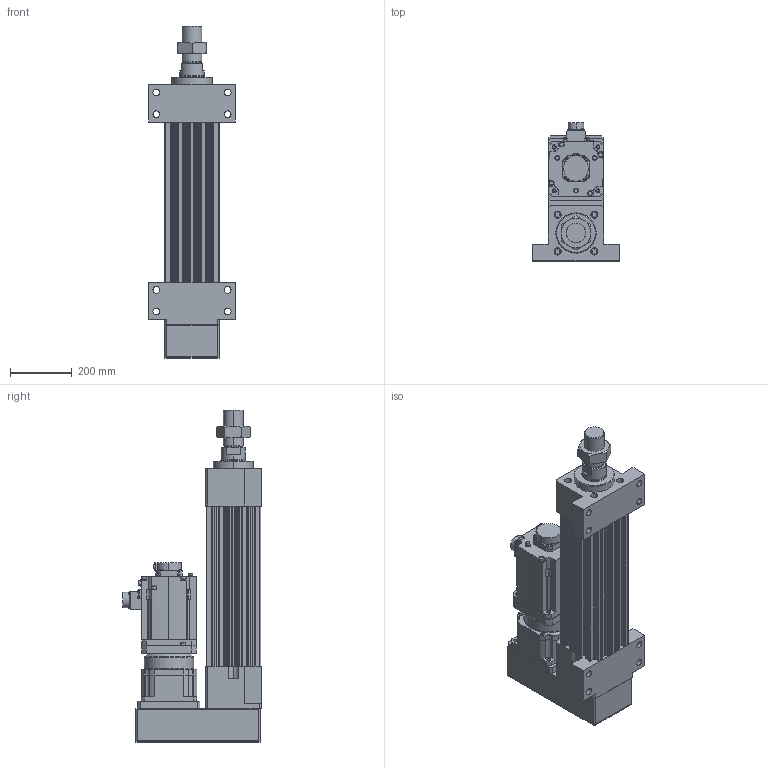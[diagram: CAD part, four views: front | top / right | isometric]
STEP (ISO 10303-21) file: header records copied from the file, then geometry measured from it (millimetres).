
FILE_DESCRIPTION (( 'STEP AP203' ), '1' );
FILE_NAME ('HES180HS-P200-W070G00-M-FFB.STEP', '2026-06-10T06:47:44', ( 'tms' ), ( '' ), 'SwSTEP 2.0', 'SolidWorks 2013', '' );
FILE_SCHEMA (( 'CONFIG_CONTROL_DESIGN' ));
Length unit declared in the file: millimetre
Products named in the file (9): M64X2.0P; HG-SR702B; AB1803; AB1801; HES180-M-ROD-200; AB1802; HES180-P-G180; HES180HS-P200-W070G00-M-FFB; HES180-FFB-200
Assembly tree (8 placements, depth 2):
  HES180HS-P200-W070G00-M-FFB
    HES180-FFB-200
    HES180-M-ROD-200
    M64X2.0P
    HES180-P-G180
    AB1801
    AB1802
    AB1803
    HG-SR702B
Bounding box: 280 x 447.1 x 1072 mm (x, y, z)
Volume: 27735212.8 mm3; surface area: 2372939.9 mm2
Topology: 5 solids, 20 shells, 1500 faces, 3895 edges, 2540 vertices
Faces by surface type: cylinder 692, plane 607, cone 134, bspline 63, torus 4
Entity records: 54836 total; most frequent: CARTESIAN_POINT 16372, DIRECTION 8097, ORIENTED_EDGE 7714, EDGE_CURVE 3881, AXIS2_PLACEMENT_3D 3045, VERTEX_POINT 2540, LINE 2007, VECTOR 2007
